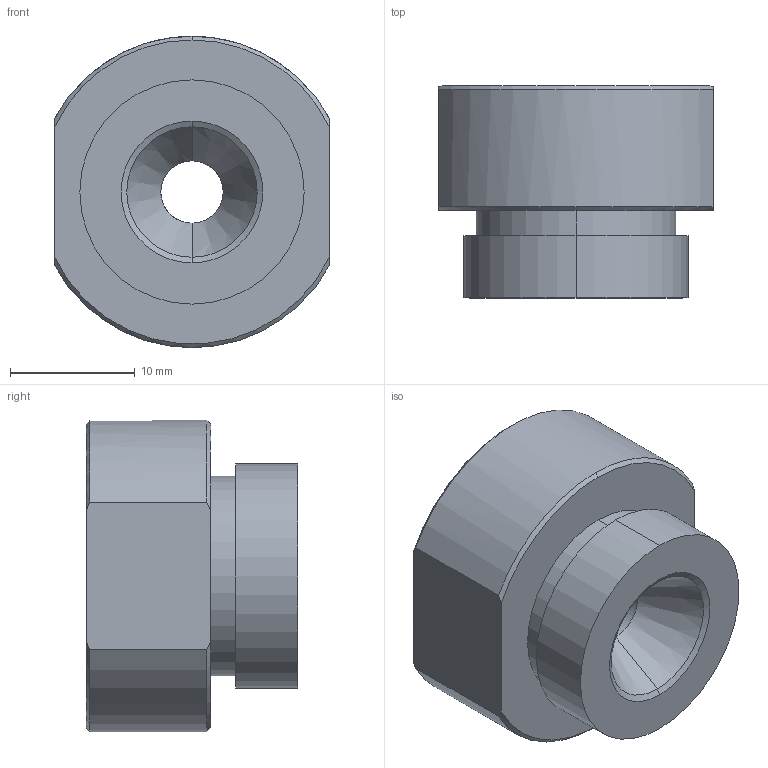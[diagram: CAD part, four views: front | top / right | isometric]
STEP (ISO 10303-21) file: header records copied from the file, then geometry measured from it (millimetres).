
FILE_DESCRIPTION (( 'STEP AP203' ), '1' );
FILE_NAME ('SW-PN-C4.STEP', '2022-04-06T00:19:29', ( '' ), ( '' ), 'SwSTEP 2.0', 'SolidWorks 2015', '' );
FILE_SCHEMA (( 'CONFIG_CONTROL_DESIGN' ));
Length unit declared in the file: millimetre
Products named in the file (2): SW-PN-C4
Bounding box: 22 x 17 x 25 mm (x, y, z)
Volume: 5845.2 mm3; surface area: 2395.1 mm2
Topology: 1 solids, 1 shells, 27 faces, 62 edges, 39 vertices
Faces by surface type: cone 12, cylinder 9, plane 6
Entity records: 966 total; most frequent: CARTESIAN_POINT 188, DIRECTION 139, ORIENTED_EDGE 124, EDGE_CURVE 62, AXIS2_PLACEMENT_3D 58, VERTEX_POINT 39, EDGE_LOOP 31, CIRCLE 29
